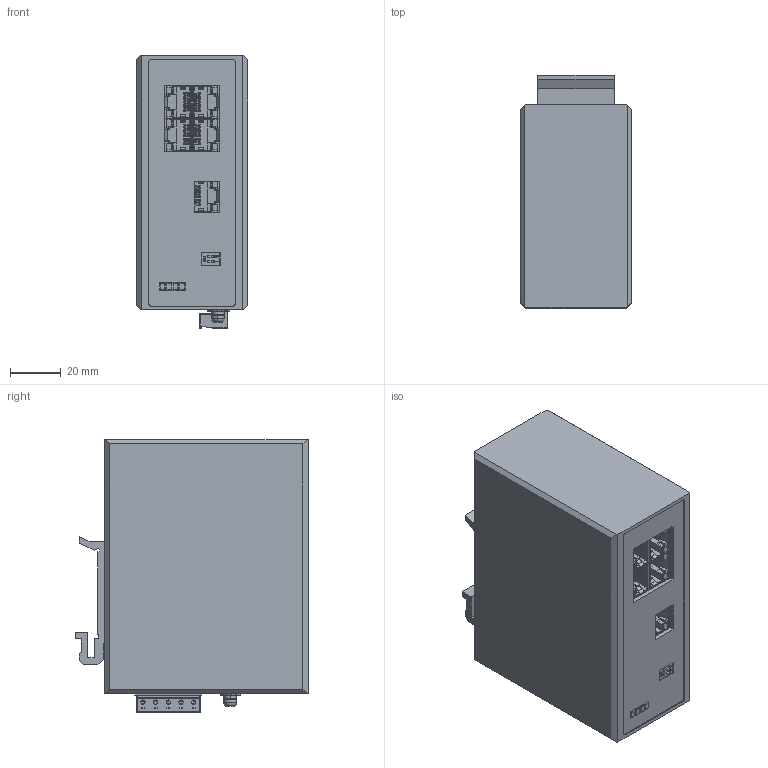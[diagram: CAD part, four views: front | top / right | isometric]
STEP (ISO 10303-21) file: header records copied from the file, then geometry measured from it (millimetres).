
FILE_DESCRIPTION((''),'2;1');
FILE_NAME('ASM0002_ASM_ASM','2025-07-31T15:51:12',('admin'),(''),'CREO PARAMETRIC BY PTC INC, 2021023','CREO PARAMETRIC BY PTC INC, 2021023','');
FILE_SCHEMA(('CONFIG_CONTROL_DESIGN'));
Length unit declared in the file: millimetre
Products named in the file (10): 305_A_2; 000_2_1; _AF_2-30032; _AF_2-43907; 20001_2_1; PRT0002_1_1; ASM0002_ASM_1_ASM; 00; ASM0002_ASM_ASM
Assembly tree (11 placements, depth 3):
  ASM0002_ASM_ASM
    ASM0002_ASM_1_ASM
      305_A_2
      000_2_1  x3
      _AF_2-30032
      _AF_2-43907
      20001_2_1
      PRT0002_1_1
    00
    00
Bounding box: 44 x 92 x 107.18 mm (x, y, z)
Volume: 69806.9 mm3; surface area: 77259.9 mm2
Topology: 10 solids, 20 shells, 2468 faces, 7230 edges, 4710 vertices
Faces by surface type: plane 1728, cylinder 536, torus 92, cone 40, bspline 26, extrusion 26, sphere 20
Entity records: 57626 total; most frequent: CARTESIAN_POINT 13936, ORIENTED_EDGE 9580, DIRECTION 8316, EDGE_CURVE 4790, VECTOR 3590, LINE 3564, VERTEX_POINT 3126, AXIS2_PLACEMENT_3D 2363
